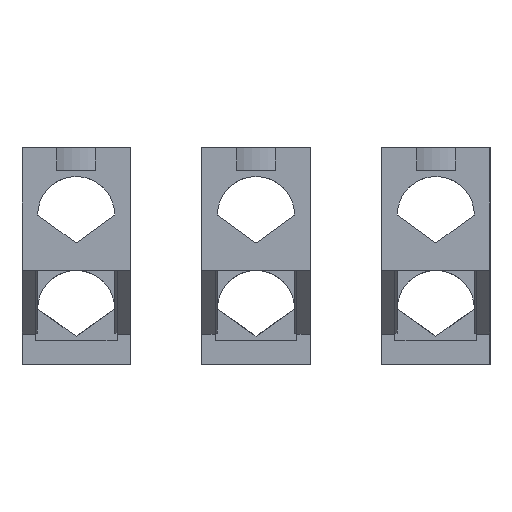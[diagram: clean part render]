
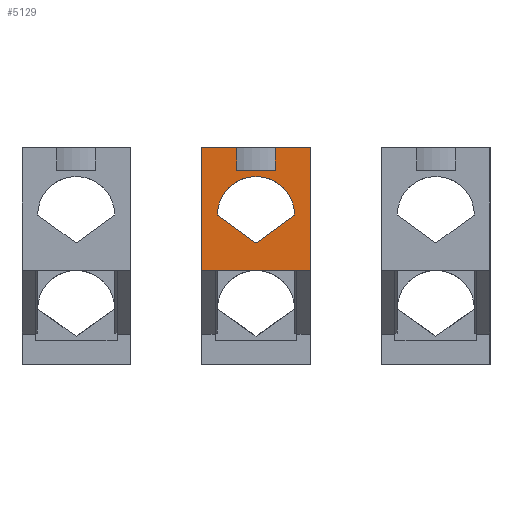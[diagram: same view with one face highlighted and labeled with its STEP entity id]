
A CAD part, front view. The second image highlights one B-rep face of the part: STEP entity #5129.
In plain terms, the highlighted planar face has unit normal (0, -1, 0).
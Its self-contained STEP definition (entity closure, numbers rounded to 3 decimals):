
#200 = VECTOR ( 'NONE', #5058, 1000. ) ;
#238 = CARTESIAN_POINT ( 'NONE',  ( 8., -109.4, 52.5 ) ) ;
#601 = CARTESIAN_POINT ( 'NONE',  ( 11.25, -109.4, 41. ) ) ;
#885 = CIRCLE ( 'NONE', #7039, 8. ) ;
#893 = ORIENTED_EDGE ( 'NONE', *, *, #5375, .F. ) ;
#1034 = CARTESIAN_POINT ( 'NONE',  ( -11.25, -109.4, 66.5 ) ) ;
#1339 = ORIENTED_EDGE ( 'NONE', *, *, #5122, .F. ) ;
#1682 = EDGE_CURVE ( 'NONE', #5691, #8565, #7578, .T. ) ;
#1818 = VECTOR ( 'NONE', #3010, 1000. ) ;
#2091 = LINE ( 'NONE', #6200, #11244 ) ;
#2123 = CARTESIAN_POINT ( 'NONE',  ( 0., -109.4, 46.7 ) ) ;
#2223 = CARTESIAN_POINT ( 'NONE',  ( 0., -109.4, 52.5 ) ) ;
#2540 = ORIENTED_EDGE ( 'NONE', *, *, #11443, .T. ) ;
#2634 = VECTOR ( 'NONE', #4023, 1000. ) ;
#2635 = FACE_BOUND ( 'NONE', #10202, .T. ) ;
#2939 = FACE_OUTER_BOUND ( 'NONE', #9208, .T. ) ;
#3010 = DIRECTION ( 'NONE',  ( -0.81, 0., 0.587 ) ) ;
#3181 = CARTESIAN_POINT ( 'NONE',  ( -11.25, -109.4, 41. ) ) ;
#3191 = VECTOR ( 'NONE', #7652, 1000. ) ;
#3214 = CARTESIAN_POINT ( 'NONE',  ( -11.25, -109.4, 41. ) ) ;
#3224 = DIRECTION ( 'NONE',  ( 0., 1., 0. ) ) ;
#3262 = CARTESIAN_POINT ( 'NONE',  ( -11.25, -109.4, 66.5 ) ) ;
#3310 = ORIENTED_EDGE ( 'NONE', *, *, #8999, .T. ) ;
#3317 = VECTOR ( 'NONE', #7315, 1000. ) ;
#3564 = ORIENTED_EDGE ( 'NONE', *, *, #4170, .T. ) ;
#3609 = CARTESIAN_POINT ( 'NONE',  ( -8., -109.4, 52.5 ) ) ;
#4023 = DIRECTION ( 'NONE',  ( 1., 0., 0. ) ) ;
#4099 = DIRECTION ( 'NONE',  ( 1., 0., 0. ) ) ;
#4170 = EDGE_CURVE ( 'NONE', #7906, #9382, #6665, .T. ) ;
#4195 = DIRECTION ( 'NONE',  ( 0., 0., 1. ) ) ;
#4207 = LINE ( 'NONE', #6586, #1818 ) ;
#4260 = CARTESIAN_POINT ( 'NONE',  ( 11.25, -109.4, 66.5 ) ) ;
#4309 = CARTESIAN_POINT ( 'NONE',  ( -4., -109.4, 61.8 ) ) ;
#4374 = CARTESIAN_POINT ( 'NONE',  ( 4., -109.4, 61.8 ) ) ;
#4915 = PLANE ( 'NONE',  #11061 ) ;
#5058 = DIRECTION ( 'NONE',  ( -1., 0., 0. ) ) ;
#5122 = EDGE_CURVE ( 'NONE', #8283, #6199, #5874, .T. ) ;
#5129 = ADVANCED_FACE ( 'NONE', ( #2635, #2939 ), #4915, .F. ) ;
#5277 = EDGE_CURVE ( 'NONE', #6877, #9961, #2091, .T. ) ;
#5375 = EDGE_CURVE ( 'NONE', #7906, #8283, #8410, .T. ) ;
#5422 = ORIENTED_EDGE ( 'NONE', *, *, #6340, .F. ) ;
#5427 = EDGE_CURVE ( 'NONE', #6766, #11656, #7690, .T. ) ;
#5647 = ORIENTED_EDGE ( 'NONE', *, *, #1682, .T. ) ;
#5691 = VERTEX_POINT ( 'NONE', #3214 ) ;
#5874 = LINE ( 'NONE', #9467, #7712 ) ;
#6199 = VERTEX_POINT ( 'NONE', #4260 ) ;
#6200 = CARTESIAN_POINT ( 'NONE',  ( 8., -109.4, 52.5 ) ) ;
#6337 = CARTESIAN_POINT ( 'NONE',  ( -4., -109.4, 61.8 ) ) ;
#6340 = EDGE_CURVE ( 'NONE', #5691, #6766, #9281, .T. ) ;
#6393 = CARTESIAN_POINT ( 'NONE',  ( -4., -109.4, 66.5 ) ) ;
#6499 = ORIENTED_EDGE ( 'NONE', *, *, #7085, .T. ) ;
#6586 = CARTESIAN_POINT ( 'NONE',  ( -8., -109.4, 52.5 ) ) ;
#6648 = ORIENTED_EDGE ( 'NONE', *, *, #7552, .T. ) ;
#6665 = LINE ( 'NONE', #6863, #200 ) ;
#6764 = VERTEX_POINT ( 'NONE', #3609 ) ;
#6766 = VERTEX_POINT ( 'NONE', #7226 ) ;
#6863 = CARTESIAN_POINT ( 'NONE',  ( -4., -109.4, 61.8 ) ) ;
#6877 = VERTEX_POINT ( 'NONE', #238 ) ;
#7039 = AXIS2_PLACEMENT_3D ( 'NONE', #2223, #8483, #9366 ) ;
#7085 = EDGE_CURVE ( 'NONE', #8565, #6199, #9808, .T. ) ;
#7102 = DIRECTION ( 'NONE',  ( -0.81, 0., -0.587 ) ) ;
#7226 = CARTESIAN_POINT ( 'NONE',  ( -11.25, -109.4, 66.5 ) ) ;
#7315 = DIRECTION ( 'NONE',  ( 0., 0., 1. ) ) ;
#7552 = EDGE_CURVE ( 'NONE', #6764, #6877, #885, .T. ) ;
#7578 = LINE ( 'NONE', #3181, #2634 ) ;
#7652 = DIRECTION ( 'NONE',  ( 0., 0., 1. ) ) ;
#7690 = LINE ( 'NONE', #10258, #8968 ) ;
#7712 = VECTOR ( 'NONE', #4099, 1000. ) ;
#7906 = VERTEX_POINT ( 'NONE', #4374 ) ;
#7989 = ORIENTED_EDGE ( 'NONE', *, *, #5277, .T. ) ;
#8283 = VERTEX_POINT ( 'NONE', #11609 ) ;
#8410 = LINE ( 'NONE', #10293, #3191 ) ;
#8483 = DIRECTION ( 'NONE',  ( 0., 1., 0. ) ) ;
#8565 = VERTEX_POINT ( 'NONE', #601 ) ;
#8968 = VECTOR ( 'NONE', #10372, 1000. ) ;
#8999 = EDGE_CURVE ( 'NONE', #9961, #6764, #4207, .T. ) ;
#9208 = EDGE_LOOP ( 'NONE', ( #3564, #2540, #9452, #5422, #5647, #6499, #1339, #893 ) ) ;
#9281 = LINE ( 'NONE', #1034, #3317 ) ;
#9366 = DIRECTION ( 'NONE',  ( -1., 0., 0. ) ) ;
#9382 = VERTEX_POINT ( 'NONE', #6337 ) ;
#9452 = ORIENTED_EDGE ( 'NONE', *, *, #5427, .F. ) ;
#9467 = CARTESIAN_POINT ( 'NONE',  ( -11.25, -109.4, 66.5 ) ) ;
#9531 = CARTESIAN_POINT ( 'NONE',  ( 11.25, -109.4, 66.5 ) ) ;
#9532 = VECTOR ( 'NONE', #10369, 1000. ) ;
#9808 = LINE ( 'NONE', #9531, #9532 ) ;
#9961 = VERTEX_POINT ( 'NONE', #2123 ) ;
#10202 = EDGE_LOOP ( 'NONE', ( #3310, #6648, #7989 ) ) ;
#10258 = CARTESIAN_POINT ( 'NONE',  ( -11.25, -109.4, 66.5 ) ) ;
#10293 = CARTESIAN_POINT ( 'NONE',  ( 4., -109.4, 61.8 ) ) ;
#10369 = DIRECTION ( 'NONE',  ( 0., 0., 1. ) ) ;
#10372 = DIRECTION ( 'NONE',  ( 1., 0., 0. ) ) ;
#10389 = DIRECTION ( 'NONE',  ( -1., 0., 0. ) ) ;
#10601 = LINE ( 'NONE', #4309, #11591 ) ;
#11061 = AXIS2_PLACEMENT_3D ( 'NONE', #3262, #3224, #10389 ) ;
#11244 = VECTOR ( 'NONE', #7102, 1000. ) ;
#11443 = EDGE_CURVE ( 'NONE', #9382, #11656, #10601, .T. ) ;
#11591 = VECTOR ( 'NONE', #4195, 1000. ) ;
#11609 = CARTESIAN_POINT ( 'NONE',  ( 4., -109.4, 66.5 ) ) ;
#11656 = VERTEX_POINT ( 'NONE', #6393 ) ;
